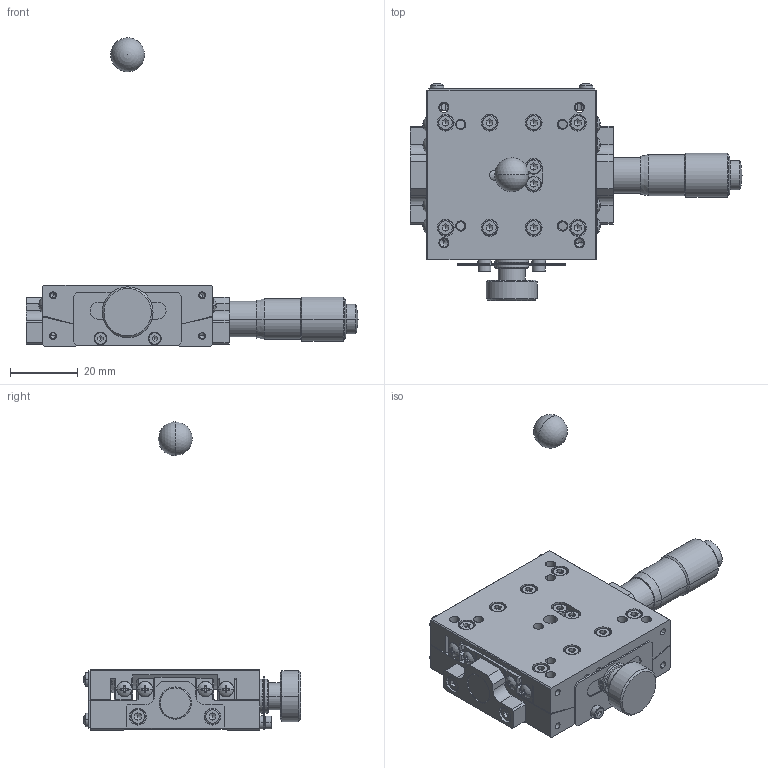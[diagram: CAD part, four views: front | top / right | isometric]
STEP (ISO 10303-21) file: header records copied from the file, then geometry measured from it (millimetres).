
FILE_DESCRIPTION (( 'STEP AP214' ), '1' );
FILE_NAME ('ST05A-C1M-R.STEP', '2007-01-19T01:24:44', ( ' ' ), ( ' ' ), 'SwSTEP 2.0', 'SolidWorks 2006052', '' );
FILE_SCHEMA (( 'AUTOMOTIVE_DESIGN' ));
Length unit declared in the file: millimetre
Products named in the file (6): 002570-1010(3D)-1; ST05A-C1M-R-Part-1; 002570-1020(3D)-1; 002560-1130(3D)-3; MICROMETERHEAD(MHS4-13)spindle-3; ST05A-C1M-R
Assembly tree (5 placements, depth 2):
  ST05A-C1M-R
    002570-1020(3D)-1
    ST05A-C1M-R-Part-1
    002570-1010(3D)-1
    MICROMETERHEAD(MHS4-13)spindle-3
    002560-1130(3D)-3
Bounding box: 98 x 64.09 x 91 mm (x, y, z)
Volume: 46506.9 mm3; surface area: 32861.2 mm2
Topology: 5 solids, 37 shells, 1893 faces, 4609 edges, 2752 vertices
Faces by surface type: plane 821, cylinder 613, cone 335, torus 92, sphere 32
Entity records: 58477 total; most frequent: CARTESIAN_POINT 13984, DIRECTION 9636, ORIENTED_EDGE 8988, EDGE_CURVE 4494, AXIS2_PLACEMENT_3D 3749, VERTEX_POINT 2749, LINE 2138, VECTOR 2138
